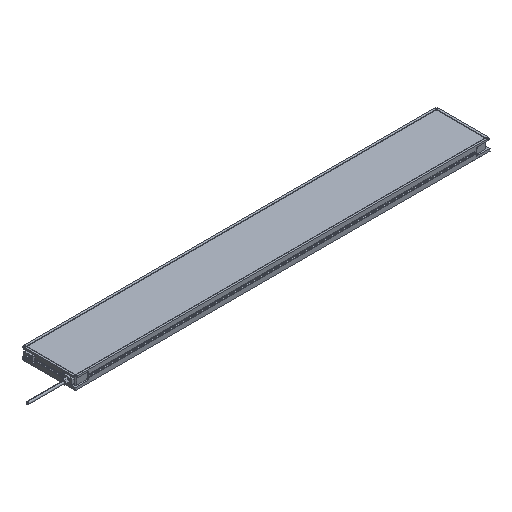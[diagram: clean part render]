
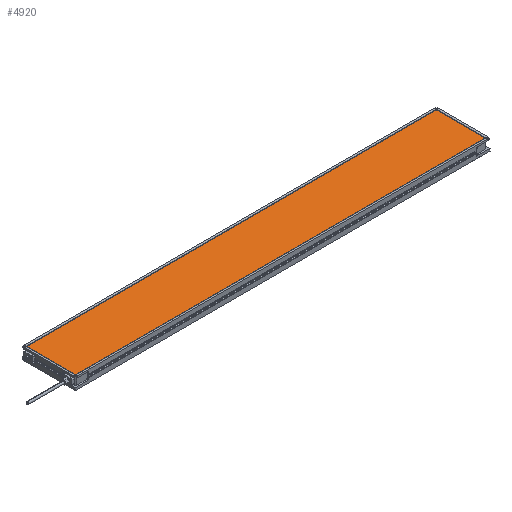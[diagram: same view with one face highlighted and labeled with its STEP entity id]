
A CAD part, isometric view. The second image highlights one B-rep face of the part: STEP entity #4920.
In plain terms, the highlighted planar face has unit normal (0, 0, 1).
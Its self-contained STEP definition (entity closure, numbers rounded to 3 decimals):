
#544 = VERTEX_POINT ( 'NONE', #3067 ) ;
#777 = LINE ( 'NONE', #7696, #12317 ) ;
#854 = ORIENTED_EDGE ( 'NONE', *, *, #4859, .T. ) ;
#3067 = CARTESIAN_POINT ( 'NONE',  ( 4., 4., 41.85 ) ) ;
#3628 = EDGE_CURVE ( 'NONE', #14630, #544, #12826, .T. ) ;
#3681 = CARTESIAN_POINT ( 'NONE',  ( 0., 0., 41.85 ) ) ;
#4130 = EDGE_CURVE ( 'NONE', #4209, #14630, #9338, .T. ) ;
#4209 = VERTEX_POINT ( 'NONE', #12166 ) ;
#4570 = EDGE_LOOP ( 'NONE', ( #854, #14370, #13219, #6349 ) ) ;
#4859 = EDGE_CURVE ( 'NONE', #10425, #4209, #777, .T. ) ;
#4920 = ADVANCED_FACE ( 'NONE', ( #4964 ), #10709, .F. ) ;
#4964 = FACE_OUTER_BOUND ( 'NONE', #4570, .T. ) ;
#5049 = DIRECTION ( 'NONE',  ( -1., 0., 0. ) ) ;
#5326 = AXIS2_PLACEMENT_3D ( 'NONE', #3681, #14538, #14713 ) ;
#5760 = VECTOR ( 'NONE', #10211, 1000. ) ;
#5904 = DIRECTION ( 'NONE',  ( 0., -1., 0. ) ) ;
#6349 = ORIENTED_EDGE ( 'NONE', *, *, #12058, .T. ) ;
#6635 = CARTESIAN_POINT ( 'NONE',  ( 4., 196., 41.85 ) ) ;
#7561 = LINE ( 'NONE', #13121, #5760 ) ;
#7696 = CARTESIAN_POINT ( 'NONE',  ( 1596., 0., 41.85 ) ) ;
#7878 = VECTOR ( 'NONE', #5904, 1000. ) ;
#7972 = DIRECTION ( 'NONE',  ( 0., 1., 0. ) ) ;
#9338 = LINE ( 'NONE', #14802, #9347 ) ;
#9347 = VECTOR ( 'NONE', #5049, 1000. ) ;
#10211 = DIRECTION ( 'NONE',  ( 1., 0., 0. ) ) ;
#10425 = VERTEX_POINT ( 'NONE', #14918 ) ;
#10709 = PLANE ( 'NONE',  #5326 ) ;
#12058 = EDGE_CURVE ( 'NONE', #544, #10425, #7561, .T. ) ;
#12166 = CARTESIAN_POINT ( 'NONE',  ( 1596., 196., 41.85 ) ) ;
#12317 = VECTOR ( 'NONE', #7972, 1000. ) ;
#12826 = LINE ( 'NONE', #13016, #7878 ) ;
#13016 = CARTESIAN_POINT ( 'NONE',  ( 4., 0., 41.85 ) ) ;
#13121 = CARTESIAN_POINT ( 'NONE',  ( 0., 4., 41.85 ) ) ;
#13219 = ORIENTED_EDGE ( 'NONE', *, *, #3628, .T. ) ;
#14370 = ORIENTED_EDGE ( 'NONE', *, *, #4130, .T. ) ;
#14538 = DIRECTION ( 'NONE',  ( 0., 0., -1. ) ) ;
#14630 = VERTEX_POINT ( 'NONE', #6635 ) ;
#14713 = DIRECTION ( 'NONE',  ( -1., 0., 0. ) ) ;
#14802 = CARTESIAN_POINT ( 'NONE',  ( 0., 196., 41.85 ) ) ;
#14918 = CARTESIAN_POINT ( 'NONE',  ( 1596., 4., 41.85 ) ) ;
